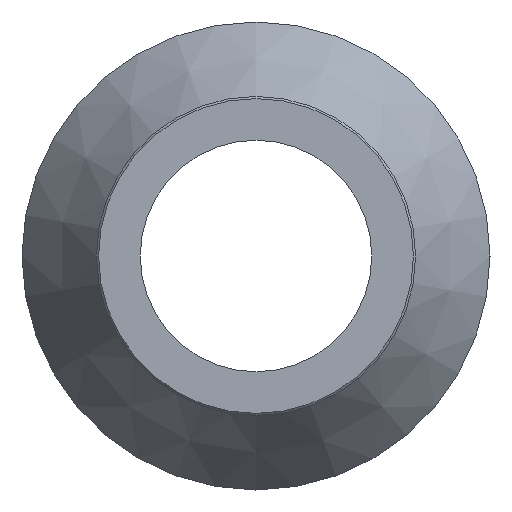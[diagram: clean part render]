
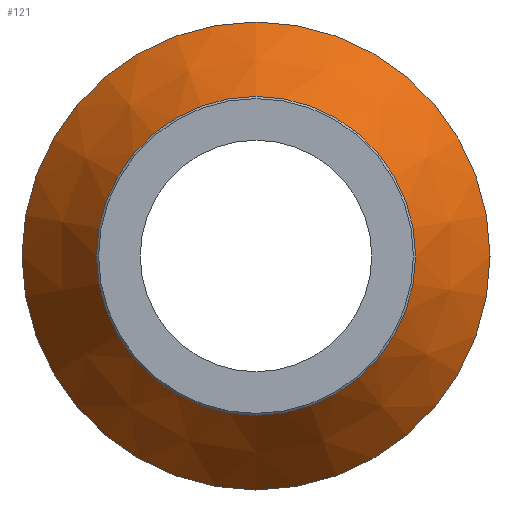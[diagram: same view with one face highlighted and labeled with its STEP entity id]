
A CAD part, left-side view. The second image highlights one B-rep face of the part: STEP entity #121.
In plain terms, the highlighted conical face has half-angle 33.944 degrees and reference radius 55 mm.
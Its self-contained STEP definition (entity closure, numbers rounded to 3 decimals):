
#22=CONICAL_SURFACE('',#146,55.,0.592);
#28=ORIENTED_EDGE('',*,*,#48,.F.);
#29=ORIENTED_EDGE('',*,*,#47,.T.);
#47=EDGE_CURVE('',#57,#57,#67,.T.);
#48=EDGE_CURVE('',#58,#58,#68,.T.);
#57=VERTEX_POINT('',#210);
#58=VERTEX_POINT('',#213);
#67=CIRCLE('',#145,55.);
#68=CIRCLE('',#147,37.5);
#78=EDGE_LOOP('',(#28));
#79=EDGE_LOOP('',(#29));
#98=FACE_BOUND('',#78,.T.);
#99=FACE_BOUND('',#79,.T.);
#121=ADVANCED_FACE('',(#98,#99),#22,.T.);
#145=AXIS2_PLACEMENT_3D('',#209,#169,#170);
#146=AXIS2_PLACEMENT_3D('',#211,#171,#172);
#147=AXIS2_PLACEMENT_3D('',#212,#173,#174);
#169=DIRECTION('',(-1.,0.,0.));
#170=DIRECTION('',(0.,0.,1.));
#171=DIRECTION('',(1.,0.,0.));
#172=DIRECTION('',(0.,0.,-1.));
#173=DIRECTION('',(-1.,0.,0.));
#174=DIRECTION('',(0.,0.,1.));
#209=CARTESIAN_POINT('',(13.,0.,0.));
#210=CARTESIAN_POINT('',(13.,0.,55.));
#211=CARTESIAN_POINT('',(13.,0.,0.));
#212=CARTESIAN_POINT('',(-13.,0.,0.));
#213=CARTESIAN_POINT('',(-13.,0.,37.5));
